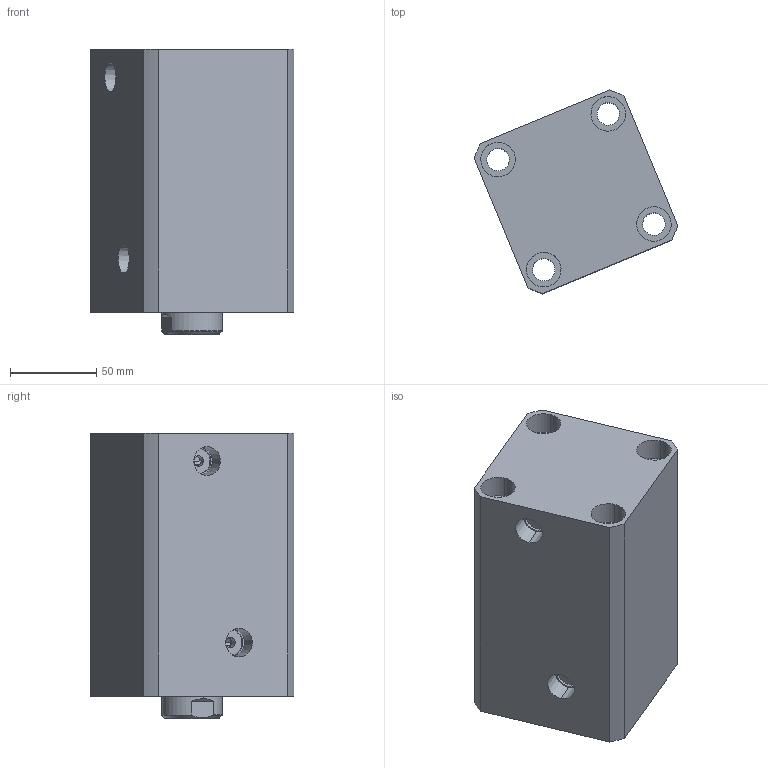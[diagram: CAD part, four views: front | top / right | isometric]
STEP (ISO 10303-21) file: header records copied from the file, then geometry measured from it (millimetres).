
FILE_DESCRIPTION (( 'STEP AP214' ), '1' );
FILE_NAME ('chtb-sd63x85n_asm.STEP', '2018-05-09T01:52:54', ( 'Windows' ), ( 'Microsoft' ), 'SwSTEP 2.0', 'SolidWorks 2015', '' );
FILE_SCHEMA (( 'AUTOMOTIVE_DESIGN' ));
Length unit declared in the file: millimetre
Products named in the file (4): CHTB63X85NBT; CHTB-63QG; chtb-sd63x85n_asm; CHTB63X85NHSG
Assembly tree (3 placements, depth 2):
  chtb-sd63x85n_asm
    CHTB-63QG
    CHTB63X85NBT
    CHTB63X85NHSG
Bounding box: 117.81 x 117.81 x 165 mm (x, y, z)
Volume: 1045766.5 mm3; surface area: 173642.5 mm2
Topology: 3 solids, 3 shells, 165 faces, 465 edges, 318 vertices
Faces by surface type: cylinder 101, plane 33, bspline 12, cone 12, torus 7
Entity records: 17638 total; most frequent: CARTESIAN_POINT 13505, ORIENTED_EDGE 918, DIRECTION 719, EDGE_CURVE 459, VERTEX_POINT 318, AXIS2_PLACEMENT_3D 291, EDGE_LOOP 197, ADVANCED_FACE 165
